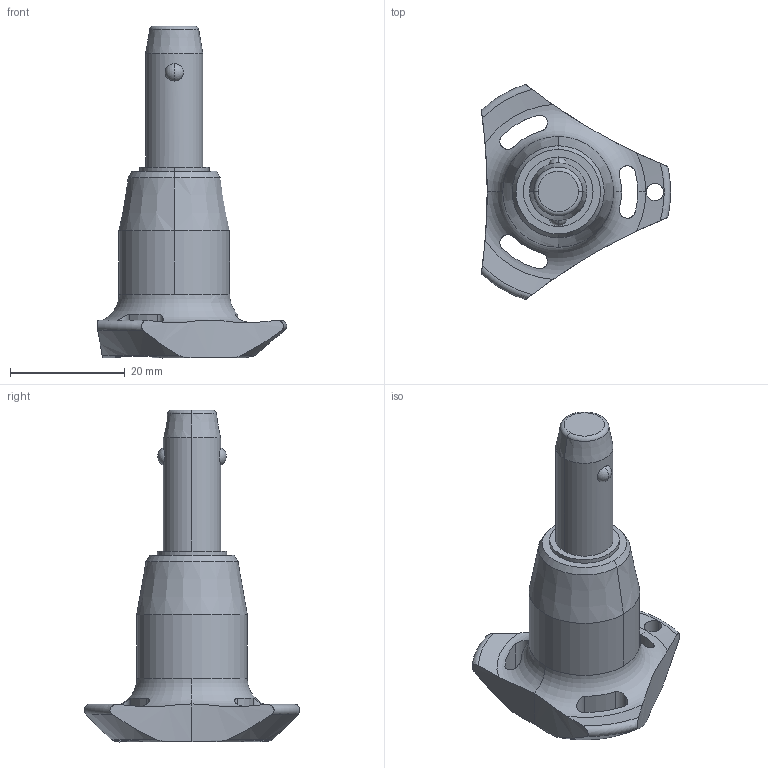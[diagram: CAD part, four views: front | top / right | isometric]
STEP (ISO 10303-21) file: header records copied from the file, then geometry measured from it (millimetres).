
FILE_DESCRIPTION (( 'STEP AP203' ), '1' );
FILE_NAME ('QR1724.M10-015-S.step', '2025-11-12T12:54:09', ( '' ), ( '' ), 'SwSTEP 2.0', 'SolidWorks 2019', '' );
FILE_SCHEMA (( 'CONFIG_CONTROL_DESIGN' ));
Length unit declared in the file: millimetre
Products named in the file (1): QR1724.M10-015-S
Bounding box: 33 x 37.51 x 57.9 mm (x, y, z)
Volume: 12258.1 mm3; surface area: 4635.7 mm2
Topology: 1 solids, 1 shells, 65 faces, 176 edges, 111 vertices
Faces by surface type: cylinder 30, cone 14, torus 11, sphere 6, plane 4
Entity records: 2778 total; most frequent: CARTESIAN_POINT 1089, ORIENTED_EDGE 352, DIRECTION 335, EDGE_CURVE 176, AXIS2_PLACEMENT_3D 149, VERTEX_POINT 111, CIRCLE 83, EDGE_LOOP 71
